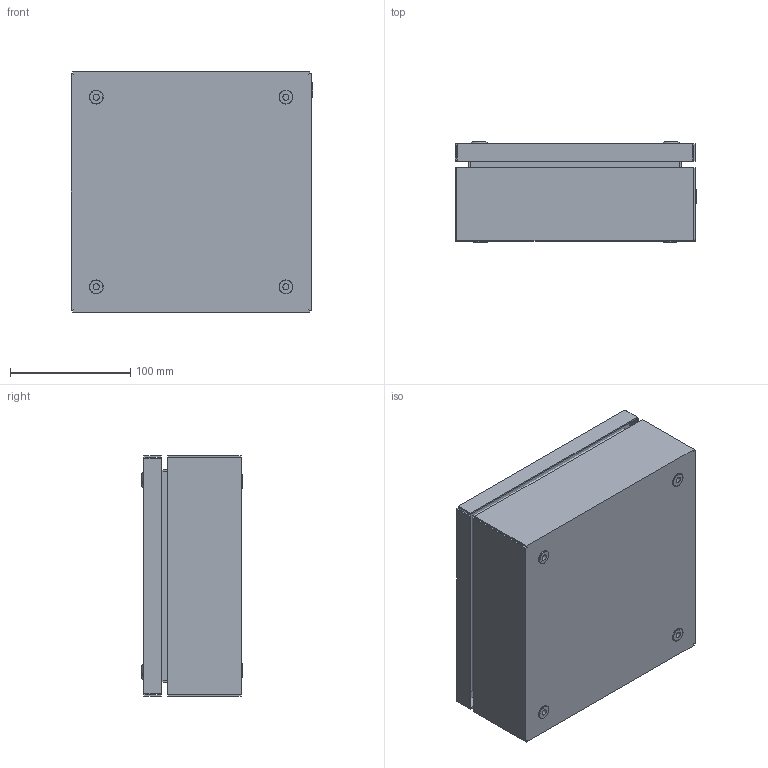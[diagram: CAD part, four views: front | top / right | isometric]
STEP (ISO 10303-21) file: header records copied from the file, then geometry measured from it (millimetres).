
FILE_DESCRIPTION(('Open CASCADE Model'),'2;1');
FILE_NAME('Open CASCADE Shape Model','2025-11-18T11:38:36',('Author'),( 'Open CASCADE'),'Open CASCADE STEP processor 7.8','Open CASCADE 7.8' ,'Unknown');
FILE_SCHEMA(('AUTOMOTIVE_DESIGN { 1 0 10303 214 1 1 1 1 }'));
Length unit declared in the file: millimetre
Products named in the file (19): Compound1; Compound2; Compound3; Compound4; Solid1; Solid2; Solid3; Solid4; Solid5; Solid6; Compound5; Compound6; Solid7; Solid8; Solid9; Solid10; Solid11; Solid12; Solid13
Assembly tree (33 placements, depth 5):
  Compound1
    Compound2
      Compound3
        Compound4
          Solid1
          Solid2  x2
          Solid3  x2
          Solid4  x2
          Solid5
        Solid6
      Compound5
        Compound6
          Solid7
          Solid8
        Solid9
      Solid10  x4
      Solid11  x4
      Solid12  x4
    Solid13  x4
Bounding box: 201.5 x 83.79 x 200 mm (x, y, z)
Volume: 293482.3 mm3; surface area: 407861 mm2
Topology: 28 solids, 28 shells, 934 faces, 2505 edges, 1656 vertices
Faces by surface type: plane 673, cylinder 135, cone 48, bspline 40, torus 30, sphere 8
Full cylindrical faces by diameter (mm): 4 x14, 4.134 x4, 5 x9, 5.2 x4, 5.3 x4, 5.5 x4, 6 x2, 6.5 x4, 7.5 x6, 7.8 x4, 8 x4, 8.5 x5, 9 x1, 9.1 x1, 11.5 x4, 12 x1, 13.5 x4, 15.791 x4
Entity records: 16104 total; most frequent: CARTESIAN_POINT 4929, ORIENTED_EDGE 2340, DIRECTION 2094, EDGE_CURVE 1170, VERTEX_POINT 773, LINE 758, VECTOR 758, AXIS2_PLACEMENT_3D 668
